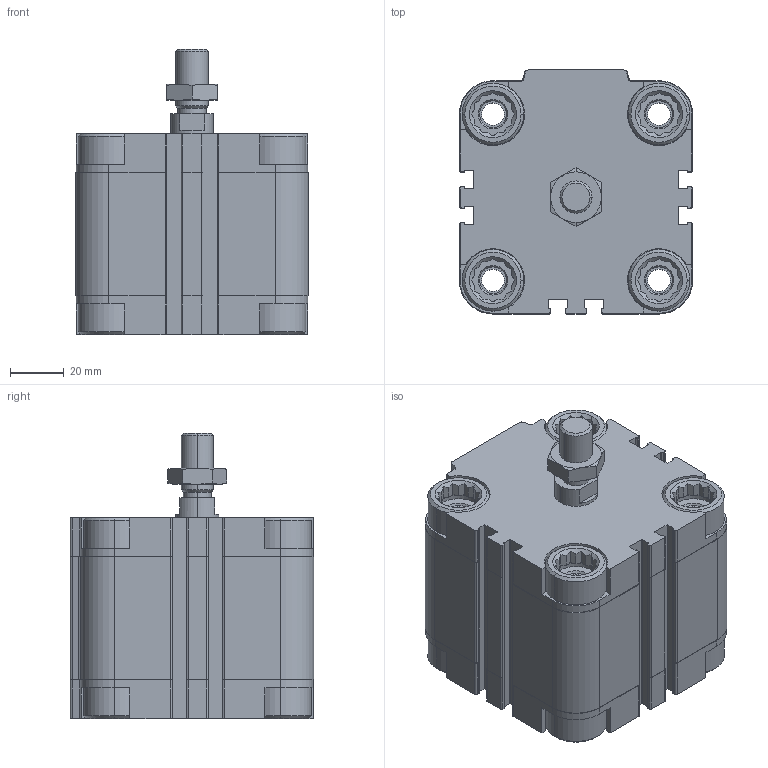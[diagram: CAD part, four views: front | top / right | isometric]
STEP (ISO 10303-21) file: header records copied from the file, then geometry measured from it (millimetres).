
FILE_DESCRIPTION (( 'STEP AP203' ), '1' );
FILE_NAME ('CDVU63-25.STEP', '2020-03-19T11:38:09', ( '' ), ( '' ), 'SwSTEP 2.0', 'SolidWorks 2019', '' );
FILE_SCHEMA (( 'CONFIG_CONTROL_DESIGN' ));
Length unit declared in the file: millimetre
Products named in the file (1): CDVU63-25
Bounding box: 87 x 91 x 106.5 mm (x, y, z)
Volume: 438591.2 mm3; surface area: 92076.1 mm2
Topology: 3 solids, 3 shells, 627 faces, 1672 edges, 1094 vertices
Faces by surface type: plane 373, cylinder 184, cone 70
Entity records: 20051 total; most frequent: CARTESIAN_POINT 4314, ORIENTED_EDGE 3336, DIRECTION 3172, EDGE_CURVE 1668, VERTEX_POINT 1094, AXIS2_PLACEMENT_3D 1080, VECTOR 1012, LINE 1012
